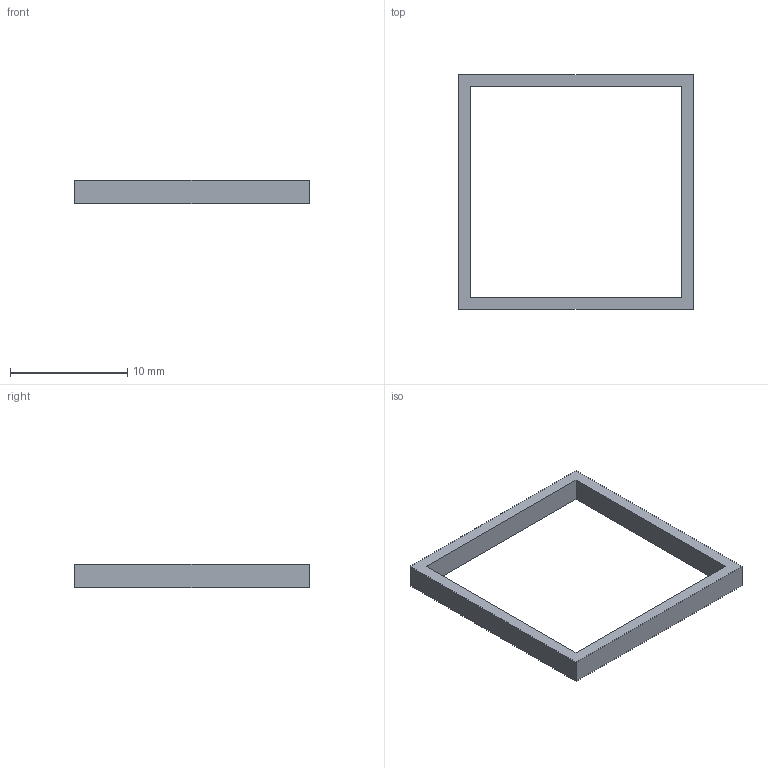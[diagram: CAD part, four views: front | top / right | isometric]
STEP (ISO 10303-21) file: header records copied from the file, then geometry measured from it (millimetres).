
FILE_DESCRIPTION(('Open CASCADE Model'),'2;1');
FILE_NAME('Open CASCADE Shape Model','2026-09-02T22:40:04',('Author'),( 'Open CASCADE'),'Open CASCADE STEP processor 7.8','Open CASCADE 7.8' ,'Unknown');
FILE_SCHEMA(('AUTOMOTIVE_DESIGN { 1 0 10303 214 1 1 1 1 }'));
Length unit declared in the file: millimetre
Products named in the file (1): Open CASCADE STEP translator 7.8 25
Bounding box: 20 x 20 x 2 mm (x, y, z)
Volume: 152 mm3; surface area: 456 mm2
Topology: 1 solids, 1 shells, 10 faces, 24 edges, 16 vertices
Faces by surface type: plane 10
Entity records: 598 total; most frequent: CARTESIAN_POINT 115, DIRECTION 78, LINE 56, VECTOR 56, ORIENTED_EDGE 48, PCURVE 48, DEFINITIONAL_REPRESENTATION 48, EDGE_CURVE 24
